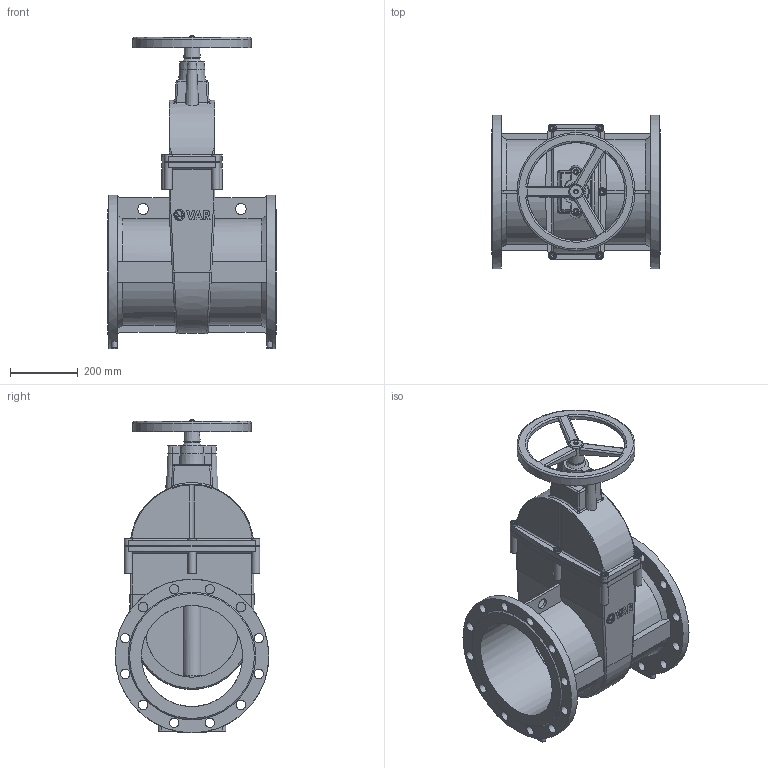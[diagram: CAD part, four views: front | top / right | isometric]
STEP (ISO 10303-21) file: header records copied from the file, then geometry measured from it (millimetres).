
FILE_DESCRIPTION(('STEP AP214'), '1');
FILE_NAME('青溻桄赅', '', ('UNSPECIFIED'), ('UNSPECIFIED'), 'C3D Converter', 'C3D Toolkit', '');
FILE_SCHEMA(('AUTOMOTIVE_DESIGN { 1 0 10303 214 3 1 1}'));
Length unit declared in the file: millimetre
Assembly tree (17 placements, depth 2):
  (unnamed)
    (unnamed)
    (unnamed)
    (unnamed)
    (unnamed)
    (unnamed)  x2
    (unnamed)
    (unnamed)
    (unnamed)  x6
    (unnamed)  x2
    (unnamed)
Bounding box: 500 x 455 x 929.1 mm (x, y, z)
Volume: 19831593.1 mm3; surface area: 3347242.3 mm2
Topology: 20 solids, 20 shells, 987 faces, 2475 edges, 1582 vertices
Faces by surface type: plane 457, cylinder 202, extrusion 173, cone 69, bspline 65, torus 21
Full cylindrical faces by diameter (mm): 6 x3, 10 x8, 12 x30, 18 x16, 28 x24, 32.4 x1, 32.625 x2, 39 x7, 55.333 x4, 275.5 x2, 290 x1, 300 x5, 339.2 x4, 340 x1, 349 x1, 350 x1, 455 x2
Entity records: 44699 total; most frequent: CARTESIAN_POINT 22499, ORIENTED_EDGE 4050, DIRECTION 3150, EDGE_CURVE 2025, VERTEX_POINT 1389, EDGE_LOOP 1132, VECTOR 1106, AXIS2_PLACEMENT_3D 1022
